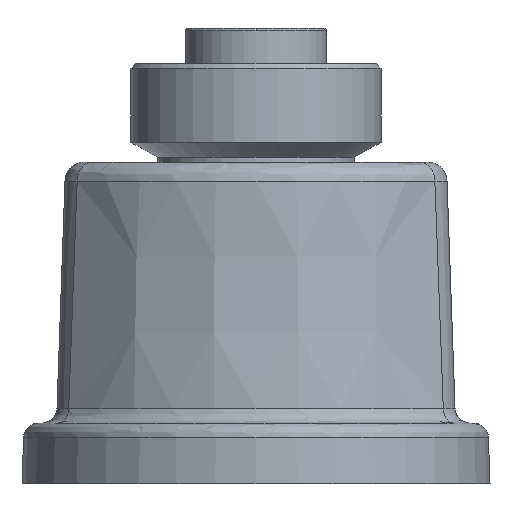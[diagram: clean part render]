
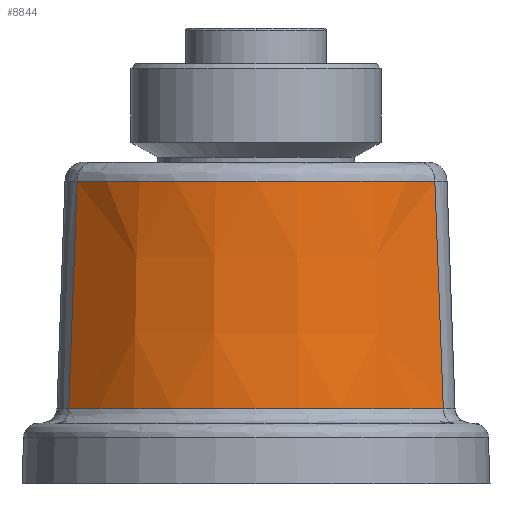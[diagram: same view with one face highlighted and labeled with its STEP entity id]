
A CAD part, front view. The second image highlights one B-rep face of the part: STEP entity #8844.
In plain terms, the highlighted conical face has half-angle 2 degrees and reference radius 24.949 mm.
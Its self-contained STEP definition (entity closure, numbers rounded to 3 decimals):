
#50 = CARTESIAN_POINT ( 'NONE',  ( 0., -23.12, -8.717 ) ) ;
#258 = B_SPLINE_CURVE_WITH_KNOTS ( 'NONE', 3,
 ( #1995, #4265, #8998, #5459 ),
 .UNSPECIFIED., .F., .F.,
 ( 4, 4 ),
 ( 0., 1. ),
 .UNSPECIFIED. ) ;
#755 = CARTESIAN_POINT ( 'NONE',  ( -19.01, -39.279, -8.717 ) ) ;
#1995 = CARTESIAN_POINT ( 'NONE',  ( 19.01, -39.279, -8.717 ) ) ;
#2898 = CIRCLE ( 'NONE', #8281, 24.949 ) ;
#3249 = EDGE_CURVE ( 'NONE', #7241, #13144, #9816, .T. ) ;
#3890 = DIRECTION ( 'NONE',  ( -1., 0., 0. ) ) ;
#3940 = CARTESIAN_POINT ( 'NONE',  ( 0., -23.12, -8.717 ) ) ;
#4265 = CARTESIAN_POINT ( 'NONE',  ( 18.72, -39.197, -0.87 ) ) ;
#4542 = CARTESIAN_POINT ( 'NONE',  ( 18.152, -39.036, 14.406 ) ) ;
#5426 = ORIENTED_EDGE ( 'NONE', *, *, #14486, .T. ) ;
#5459 = CARTESIAN_POINT ( 'NONE',  ( 18.152, -39.036, 14.406 ) ) ;
#5613 = ORIENTED_EDGE ( 'NONE', *, *, #3249, .T. ) ;
#6018 = DIRECTION ( 'NONE',  ( 0., 0., 1. ) ) ;
#6183 = CARTESIAN_POINT ( 'NONE',  ( -18.152, -39.036, 14.406 ) ) ;
#6361 = DIRECTION ( 'NONE',  ( 1., 0., 0. ) ) ;
#6380 = ORIENTED_EDGE ( 'NONE', *, *, #6947, .T. ) ;
#6434 = AXIS2_PLACEMENT_3D ( 'NONE', #9915, #13291, #6361 ) ;
#6883 = DIRECTION ( 'NONE',  ( 0., 0., -1. ) ) ;
#6947 = EDGE_CURVE ( 'NONE', #9871, #14317, #258, .T. ) ;
#7241 = VERTEX_POINT ( 'NONE', #6183 ) ;
#7472 = FACE_OUTER_BOUND ( 'NONE', #10289, .T. ) ;
#8016 = CIRCLE ( 'NONE', #6434, 24.142 ) ;
#8223 = ORIENTED_EDGE ( 'NONE', *, *, #13153, .T. ) ;
#8281 = AXIS2_PLACEMENT_3D ( 'NONE', #3940, #6018, #3890 ) ;
#8586 = CARTESIAN_POINT ( 'NONE',  ( -18.72, -39.197, -0.87 ) ) ;
#8844 = ADVANCED_FACE ( 'NONE', ( #7472 ), #14244, .T. ) ;
#8998 = CARTESIAN_POINT ( 'NONE',  ( 18.434, -39.116, 6.837 ) ) ;
#9620 = AXIS2_PLACEMENT_3D ( 'NONE', #50, #6883, #12606 ) ;
#9816 = B_SPLINE_CURVE_WITH_KNOTS ( 'NONE', 3,
 ( #13124, #9899, #8586, #755 ),
 .UNSPECIFIED., .F., .F.,
 ( 4, 4 ),
 ( 0., 1. ),
 .UNSPECIFIED. ) ;
#9871 = VERTEX_POINT ( 'NONE', #10237 ) ;
#9899 = CARTESIAN_POINT ( 'NONE',  ( -18.434, -39.116, 6.837 ) ) ;
#9915 = CARTESIAN_POINT ( 'NONE',  ( 0., -23.12, 14.406 ) ) ;
#10237 = CARTESIAN_POINT ( 'NONE',  ( 19.01, -39.279, -8.717 ) ) ;
#10289 = EDGE_LOOP ( 'NONE', ( #5426, #5613, #8223, #6380 ) ) ;
#10606 = CARTESIAN_POINT ( 'NONE',  ( -19.01, -39.279, -8.717 ) ) ;
#12606 = DIRECTION ( 'NONE',  ( 0., 1., 0. ) ) ;
#13124 = CARTESIAN_POINT ( 'NONE',  ( -18.152, -39.036, 14.406 ) ) ;
#13144 = VERTEX_POINT ( 'NONE', #10606 ) ;
#13153 = EDGE_CURVE ( 'NONE', #13144, #9871, #2898, .T. ) ;
#13291 = DIRECTION ( 'NONE',  ( 0., 0., -1. ) ) ;
#14244 = CONICAL_SURFACE ( 'NONE', #9620, 24.949, 0.035 ) ;
#14317 = VERTEX_POINT ( 'NONE', #4542 ) ;
#14486 = EDGE_CURVE ( 'NONE', #14317, #7241, #8016, .T. ) ;
